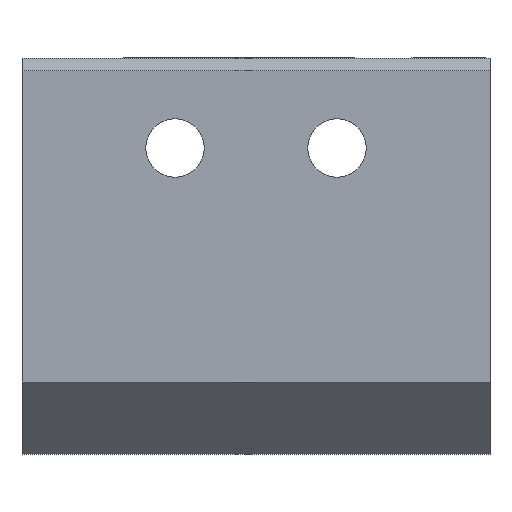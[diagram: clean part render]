
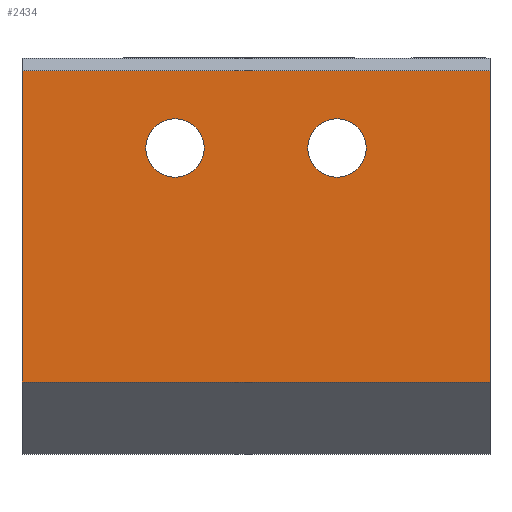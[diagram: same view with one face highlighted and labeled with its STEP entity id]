
A CAD part, front view. The second image highlights one B-rep face of the part: STEP entity #2434.
In plain terms, the highlighted planar face has unit normal (0, -1, 0).
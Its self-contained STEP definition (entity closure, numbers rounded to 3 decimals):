
#1551=CARTESIAN_POINT('',(26.0,-8.,13.3));
#1552=VERTEX_POINT('',#1551);
#1569=CARTESIAN_POINT('',(0.0,-8.,13.3));
#1570=VERTEX_POINT('',#1569);
#1577=CARTESIAN_POINT('',(0.0,-8.,13.3));
#1578=DIRECTION('',(1.0,0.0,0.0));
#1579=VECTOR('',#1578,26.0);
#1580=LINE('',#1577,#1579);
#1581=EDGE_CURVE('',#1570,#1552,#1580,.T.);
#1632=CARTESIAN_POINT('',(0.0,-8.,-4.));
#1633=VERTEX_POINT('',#1632);
#1640=CARTESIAN_POINT('',(0.0,-8.,-4.));
#1641=DIRECTION('',(0.0,0.0,1.0));
#1642=VECTOR('',#1641,17.3);
#1643=LINE('',#1640,#1642);
#1644=EDGE_CURVE('',#1633,#1570,#1643,.T.);
#1729=CARTESIAN_POINT('',(26.0,-8.,-4.));
#1730=VERTEX_POINT('',#1729);
#1737=CARTESIAN_POINT('',(26.0,-8.,-4.));
#1738=DIRECTION('',(-1.0,0.0,0.0));
#1739=VECTOR('',#1738,26.0);
#1740=LINE('',#1737,#1739);
#1741=EDGE_CURVE('',#1730,#1633,#1740,.T.);
#2178=CARTESIAN_POINT('',(19.121,-8.,9.0));
#2179=VERTEX_POINT('',#2178);
#2180=CARTESIAN_POINT('',(17.5,-8.,9.0));
#2181=DIRECTION('',(0.0,1.0,0.0));
#2182=DIRECTION('',(-1.0,0.0,0.0));
#2183=AXIS2_PLACEMENT_3D('',#2180,#2181,#2182);
#2184=CIRCLE('',#2183,1.621);
#2185=EDGE_CURVE('',#2179,#2179,#2184,.T.);
#2288=CARTESIAN_POINT('',(10.121,-8.,9.0));
#2289=VERTEX_POINT('',#2288);
#2290=CARTESIAN_POINT('',(8.5,-8.,9.0));
#2291=DIRECTION('',(0.0,1.0,0.0));
#2292=DIRECTION('',(-1.0,0.0,0.0));
#2293=AXIS2_PLACEMENT_3D('',#2290,#2291,#2292);
#2294=CIRCLE('',#2293,1.621);
#2295=EDGE_CURVE('',#2289,#2289,#2294,.T.);
#2412=CARTESIAN_POINT('',(0.0,-8.,-8.));
#2413=DIRECTION('',(0.0,-1.0,0.0));
#2414=DIRECTION('',(0.0,0.0,-1.0));
#2415=AXIS2_PLACEMENT_3D('',#2412,#2413,#2414);
#2416=PLANE('',#2415);
#2417=ORIENTED_EDGE('',*,*,#1581,.F.);
#2418=ORIENTED_EDGE('',*,*,#1644,.F.);
#2419=ORIENTED_EDGE('',*,*,#1741,.F.);
#2420=CARTESIAN_POINT('',(26.0,-8.,-4.));
#2421=DIRECTION('',(0.0,0.0,1.0));
#2422=VECTOR('',#2421,17.3);
#2423=LINE('',#2420,#2422);
#2424=EDGE_CURVE('',#1730,#1552,#2423,.T.);
#2425=ORIENTED_EDGE('',*,*,#2424,.T.);
#2426=EDGE_LOOP('',(#2417,#2418,#2419,#2425));
#2427=FACE_OUTER_BOUND('',#2426,.T.);
#2428=ORIENTED_EDGE('',*,*,#2185,.T.);
#2429=EDGE_LOOP('',(#2428));
#2430=FACE_BOUND('',#2429,.T.);
#2431=ORIENTED_EDGE('',*,*,#2295,.T.);
#2432=EDGE_LOOP('',(#2431));
#2433=FACE_BOUND('',#2432,.T.);
#2434=ADVANCED_FACE('',(#2427,#2430,#2433),#2416,.T.);
